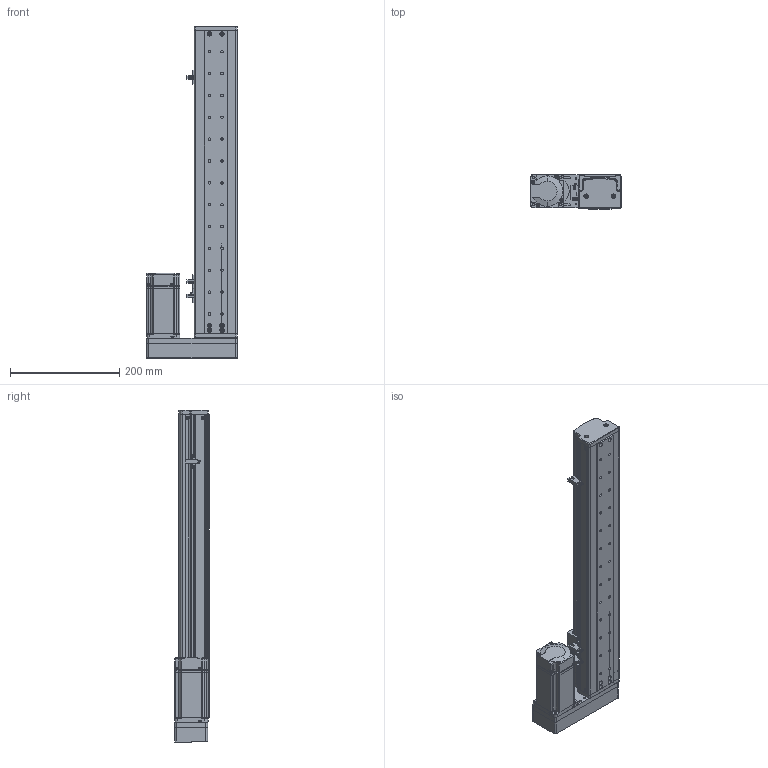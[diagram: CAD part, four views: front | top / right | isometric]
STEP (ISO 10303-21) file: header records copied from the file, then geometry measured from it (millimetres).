
FILE_DESCRIPTION (( 'STEP AP214' ), '1' );
FILE_NAME ('KSD75S-S400-MR-CM.STEP', '2019-10-18T07:18:26', ( '微软用户' ), ( '微软中国' ), 'SwSTEP 2.0', 'SolidWorks 2014', '' );
FILE_SCHEMA (( 'AUTOMOTIVE_DESIGN' ));
Length unit declared in the file: millimetre
Products named in the file (13): U倰嫖萇EEㄜSX672; 綴傷啣 ; ヶ傷啣; 75裔啣-400俴最; 75遵耀郪耜啣-400俴最; 75遵賑雄釱; MGW15H賑寢400俴最 ; 400俴最; KSD75S-S400-MR-CM; MHMD042G1CA_2_03; 75宽模组保护罩左右折; 75宽马达安装板连板左右折丝杆; 覜茼え100遵圉猾敕
Assembly tree (15 placements, depth 3):
  KSD75S-S400-MR-CM
    MGW15H賑寢400俴最 
      400俴最
    75遵賑雄釱
    75遵耀郪耜啣-400俴最  x2
    75裔啣-400俴最
    ヶ傷啣
    綴傷啣 
    U倰嫖萇EEㄜSX672  x3
    覜茼え100遵圉猾敕
    75宽马达安装板连板左右折丝杆
    75宽模组保护罩左右折
    MHMD042G1CA_2_03
Bounding box: 165 x 63 x 607.5 mm (x, y, z)
Volume: 835657.2 mm3; surface area: 525399.5 mm2
Topology: 13 solids, 14 shells, 1463 faces, 4138 edges, 2701 vertices
Faces by surface type: cylinder 691, plane 625, cone 129, bspline 18
Entity records: 46918 total; most frequent: CARTESIAN_POINT 8918, DIRECTION 7004, ORIENTED_EDGE 6556, EDGE_CURVE 3349, AXIS2_PLACEMENT_3D 2566, VERTEX_POINT 2219, LINE 1872, VECTOR 1872
